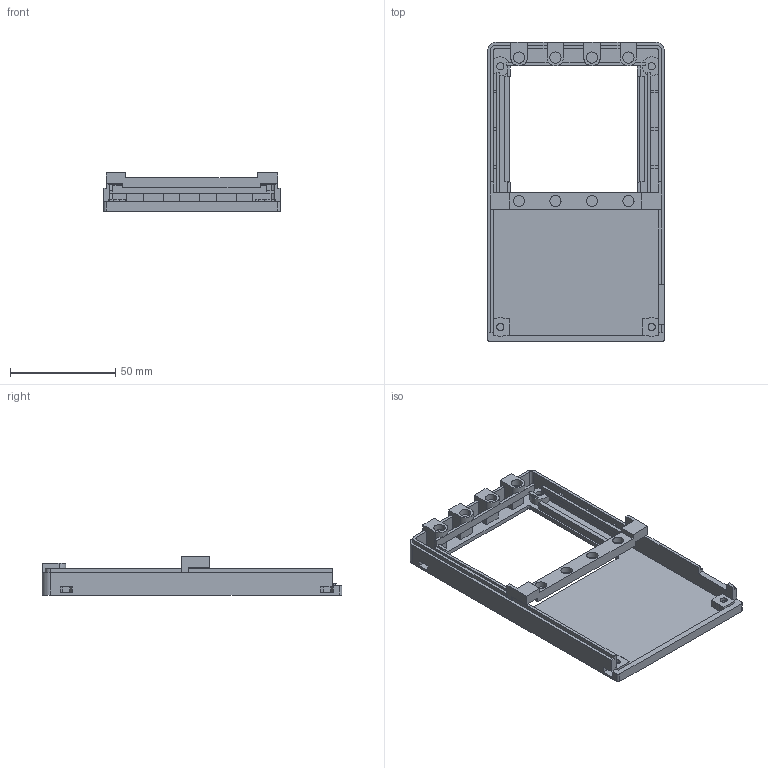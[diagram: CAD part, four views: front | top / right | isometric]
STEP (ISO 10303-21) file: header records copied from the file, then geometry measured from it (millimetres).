
FILE_DESCRIPTION(('FreeCAD Model'),'2;1');
FILE_NAME('Open CASCADE Shape Model','2026-11-05T07:51:25',('FreeCAD'),( 'FreeCAD'),'Open CASCADE STEP processor 7.8','FreeCAD','Unknown');
FILE_SCHEMA(('AUTOMOTIVE_DESIGN { 1 0 10303 214 1 1 1 1 }'));
Length unit declared in the file: millimetre
Products named in the file (1): Open CASCADE STEP translator 7.8 1
Bounding box: 84 x 142.4 x 18.2 mm (x, y, z)
Volume: 34419.2 mm3; surface area: 33262.8 mm2
Topology: 1 solids, 1 shells, 267 faces, 806 edges, 544 vertices
Faces by surface type: plane 225, cylinder 42
Full cylindrical faces by diameter (mm): 3.4 x8, 5.4 x8
Entity records: 9069 total; most frequent: CARTESIAN_POINT 1618, ORIENTED_EDGE 1612, DIRECTION 1461, EDGE_CURVE 806, LINE 687, VECTOR 687, VERTEX_POINT 544, AXIS2_PLACEMENT_3D 387
